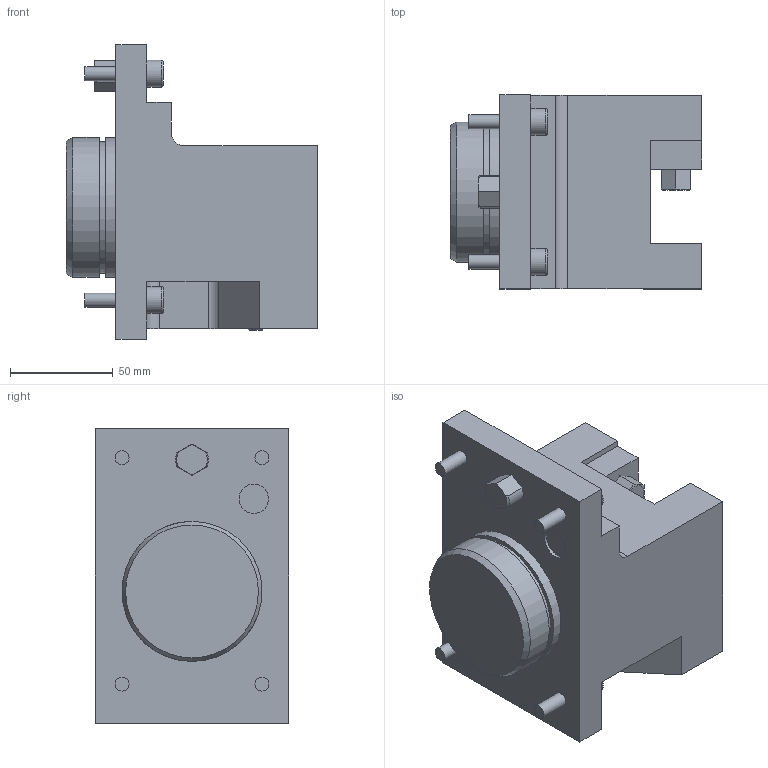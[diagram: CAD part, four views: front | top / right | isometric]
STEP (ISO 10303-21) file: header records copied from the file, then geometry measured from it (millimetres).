
FILE_DESCRIPTION(/* description */ (''),/* implementation_level */ '2;1');
FILE_NAME(/* name */ '179376',/* time_stamp */ '2020-09-28T11:45:24+02:00',/* author */ (''),/* organization */ (''),/* preprocessor_version */ 'ST-DEVELOPER v16.5',/* originating_system */ 'HiCAD 2017 2201.0 Build 268',/* authorisation */ '');
FILE_SCHEMA (('AUTOMOTIVE_DESIGN { 1 0 10303 214 1 1 1 1 }'));
Length unit declared in the file: millimetre
Products named in the file (2): Root; Teil
Assembly tree (1 placements, depth 2):
  Root
    Teil
Bounding box: 122 x 94 x 143 mm (x, y, z)
Volume: 882684 mm3; surface area: 81333.3 mm2
Topology: 1 solids, 3 shells, 193 faces, 457 edges, 292 vertices
Faces by surface type: plane 146, cylinder 25, cone 14, torus 6, sphere 2
Full cylindrical faces by diameter (mm): 6.6 x2, 6.8 x4, 10 x2, 11 x2, 13 x4, 14.27 x1, 63.8 x1, 68 x2
Entity records: 9218 total; most frequent: DIRECTION 921, CARTESIAN_POINT 874, PRESENTATION_STYLE_ASSIGNMENT 803, COLOUR_RGB 803, DRAUGHTING_PRE_DEFINED_CURVE_FONT 802, CURVE_STYLE 802, OVER_RIDING_STYLED_ITEM 802, ORIENTED_EDGE 802
